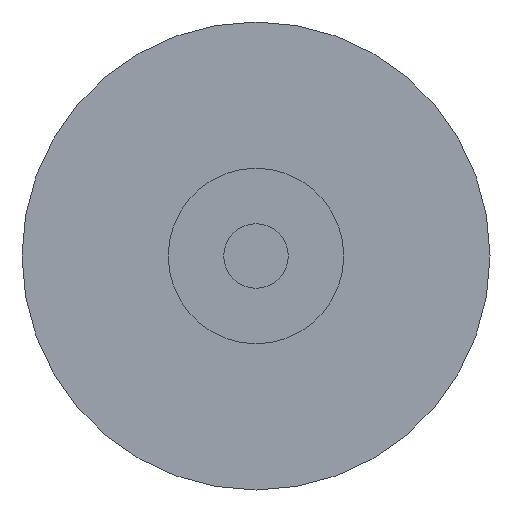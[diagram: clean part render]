
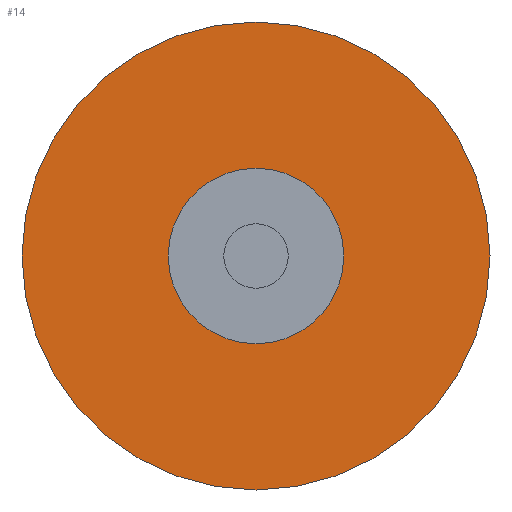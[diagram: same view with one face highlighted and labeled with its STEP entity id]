
A CAD part, front view. The second image highlights one B-rep face of the part: STEP entity #14.
In plain terms, the highlighted planar face has unit normal (0, -1, 0).
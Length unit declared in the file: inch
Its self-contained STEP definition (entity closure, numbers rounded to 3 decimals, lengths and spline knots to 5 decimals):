
#14 = ADVANCED_FACE ( 'NONE', ( #161, #166 ), #275, .F. ) ;
#21 = EDGE_CURVE ( 'NONE', #224, #230, #175, .T. ) ;
#39 = EDGE_CURVE ( 'NONE', #230, #224, #446, .T. ) ;
#46 = EDGE_CURVE ( 'NONE', #242, #226, #444, .T. ) ;
#54 = EDGE_CURVE ( 'NONE', #226, #242, #427, .T. ) ;
#61 = AXIS2_PLACEMENT_3D ( 'NONE', #276, #277, #281 ) ;
#65 = AXIS2_PLACEMENT_3D ( 'NONE', #303, #296, #316 ) ;
#74 = AXIS2_PLACEMENT_3D ( 'NONE', #336, #339, #345 ) ;
#81 = AXIS2_PLACEMENT_3D ( 'NONE', #359, #360, #361 ) ;
#84 = AXIS2_PLACEMENT_3D ( 'NONE', #365, #342, #341 ) ;
#125 = EDGE_LOOP ( 'NONE', ( #209, #202 ) ) ;
#148 = EDGE_LOOP ( 'NONE', ( #191, #193 ) ) ;
#161 = FACE_OUTER_BOUND ( 'NONE', #125, .T. ) ;
#166 = FACE_BOUND ( 'NONE', #148, .T. ) ;
#175 = CIRCLE ( 'NONE', #65, 0.5 ) ;
#191 = ORIENTED_EDGE ( 'NONE', *, *, #54, .F. ) ;
#193 = ORIENTED_EDGE ( 'NONE', *, *, #46, .F. ) ;
#202 = ORIENTED_EDGE ( 'NONE', *, *, #39, .F. ) ;
#209 = ORIENTED_EDGE ( 'NONE', *, *, #21, .F. ) ;
#224 = VERTEX_POINT ( 'NONE', #407 ) ;
#226 = VERTEX_POINT ( 'NONE', #390 ) ;
#230 = VERTEX_POINT ( 'NONE', #383 ) ;
#242 = VERTEX_POINT ( 'NONE', #404 ) ;
#275 = PLANE ( 'NONE',  #61 ) ;
#276 = CARTESIAN_POINT ( 'NONE',  ( -1.10557, -0.36, 0. ) ) ;
#277 = DIRECTION ( 'NONE',  ( 0., 1., 0. ) ) ;
#281 = DIRECTION ( 'NONE',  ( 0., 0., 1. ) ) ;
#296 = DIRECTION ( 'NONE',  ( 0., 1., 0. ) ) ;
#303 = CARTESIAN_POINT ( 'NONE',  ( 0., -0.36, 0. ) ) ;
#316 = DIRECTION ( 'NONE',  ( 0., 0., 1. ) ) ;
#336 = CARTESIAN_POINT ( 'NONE',  ( 0., -0.36, 0. ) ) ;
#339 = DIRECTION ( 'NONE',  ( 0., 1., 0. ) ) ;
#341 = DIRECTION ( 'NONE',  ( 0., 0., 1. ) ) ;
#342 = DIRECTION ( 'NONE',  ( 0., -1., 0. ) ) ;
#345 = DIRECTION ( 'NONE',  ( 0., 0., 1. ) ) ;
#359 = CARTESIAN_POINT ( 'NONE',  ( 0., -0.36, 0. ) ) ;
#360 = DIRECTION ( 'NONE',  ( 0., -1., 0. ) ) ;
#361 = DIRECTION ( 'NONE',  ( 0., 0., 1. ) ) ;
#365 = CARTESIAN_POINT ( 'NONE',  ( 0., -0.36, 0. ) ) ;
#383 = CARTESIAN_POINT ( 'NONE',  ( 0., -0.36, 0.5 ) ) ;
#390 = CARTESIAN_POINT ( 'NONE',  ( 0., -0.36, -0.1875 ) ) ;
#404 = CARTESIAN_POINT ( 'NONE',  ( 0., -0.36, 0.1875 ) ) ;
#407 = CARTESIAN_POINT ( 'NONE',  ( 0., -0.36, -0.5 ) ) ;
#427 = CIRCLE ( 'NONE', #81, 0.1875 ) ;
#444 = CIRCLE ( 'NONE', #84, 0.1875 ) ;
#446 = CIRCLE ( 'NONE', #74, 0.5 ) ;
